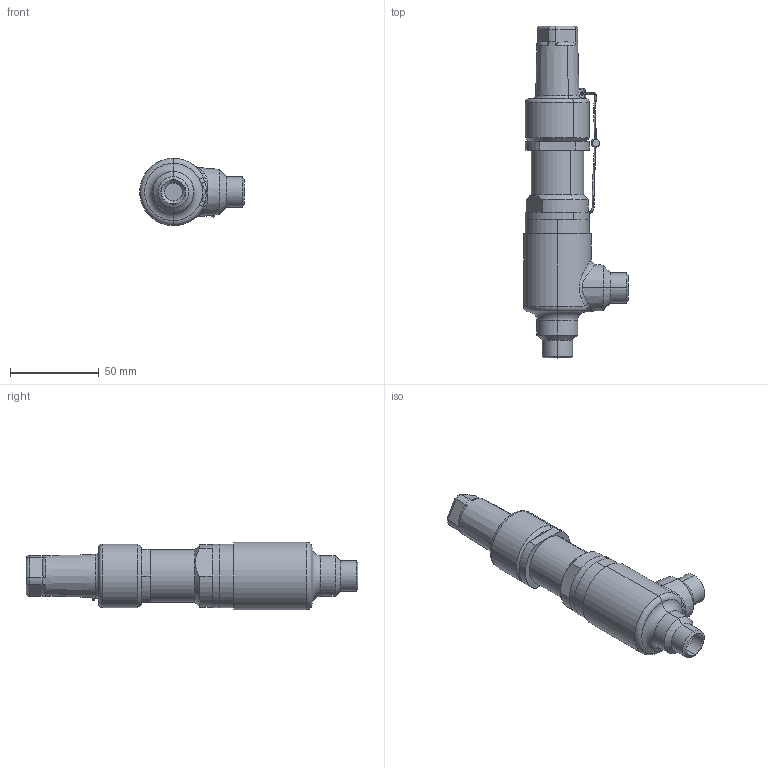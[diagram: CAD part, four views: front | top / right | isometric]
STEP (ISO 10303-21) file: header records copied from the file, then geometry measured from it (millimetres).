
FILE_DESCRIPTION (( 'STEP AP214' ), '1' );
FILE_NAME ('SVU 44800C08-DN10-10_R1.STEP', '2010-09-07T13:48:11', ( 'Eckhard Grams' ), ( 'AWP Kälte Klima Armaturen GmbH' ), 'SwSTEP 2.0', 'SolidWorks 2002296', '' );
FILE_SCHEMA (( 'AUTOMOTIVE_DESIGN' ));
Length unit declared in the file: millimetre
Products named in the file (7): SVU 44800C08-DN10-10_R1; Einstellschr 44551-07-8080002_DN 8-15_Standard; Gehäuse42200E08-DN10-10_PS40_R1_Standard; Deckel 44551-07-DN 8-15_PS40_Standard; Klemmring 44551-07-DN 8-15_Standard; Blombe-Schnur_Standard; Kappe 36302-10_DN6-15 (M27x1)_Standard
Assembly tree (6 placements, depth 2):
  SVU 44800C08-DN10-10_R1
    Einstellschr 44551-07-8080002_DN 8-15_Standard
    Kappe 36302-10_DN6-15 (M27x1)_Standard
    Blombe-Schnur_Standard
    Gehäuse42200E08-DN10-10_PS40_R1_Standard
    Deckel 44551-07-DN 8-15_PS40_Standard
    Klemmring 44551-07-DN 8-15_Standard
Bounding box: 59 x 187 x 38 mm (x, y, z)
Volume: 110980.2 mm3; surface area: 46296.2 mm2
Topology: 6 solids, 6 shells, 240 faces, 531 edges, 317 vertices
Faces by surface type: cylinder 94, plane 52, cone 39, torus 32, bspline 23
Entity records: 20617 total; most frequent: CARTESIAN_POINT 14403, DIRECTION 1173, ORIENTED_EDGE 1062, EDGE_CURVE 531, AXIS2_PLACEMENT_3D 501, VERTEX_POINT 317, CIRCLE 275, EDGE_LOOP 268
